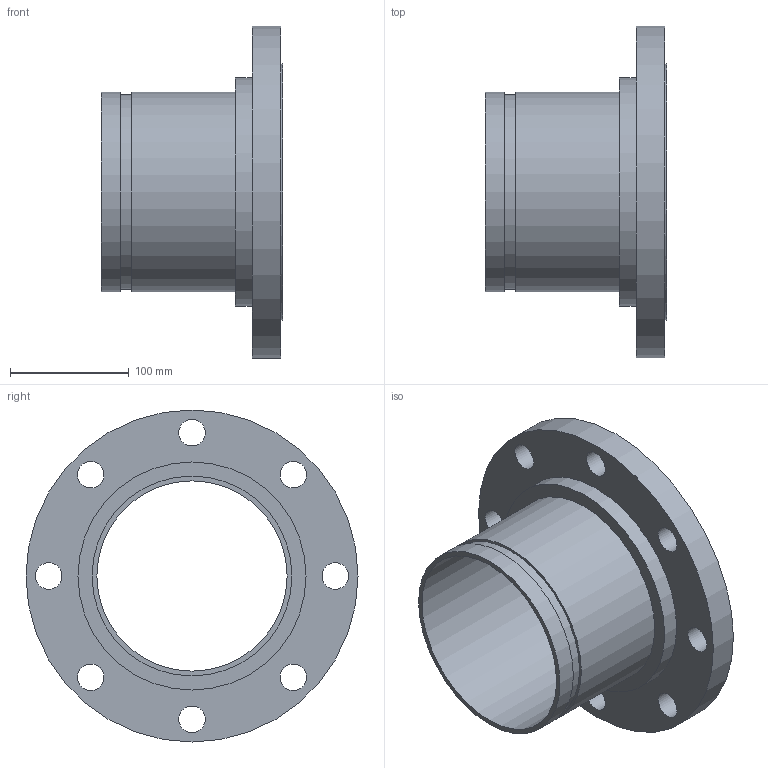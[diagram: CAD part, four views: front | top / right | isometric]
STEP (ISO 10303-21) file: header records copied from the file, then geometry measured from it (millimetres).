
FILE_DESCRIPTION(/* description */ ('VIC No 445R FLANGE ADAPTER NIPPE (ANSI)','CAx-IF Rec.Pracs.---Representation and Presentation of Product Manufacturing Information (PMI)---4.0---2014-10-13'),/* implementation_level */ '2;1');
FILE_NAME(/* name */ 'C:\Users\kkamble\AppData\Roaming\Autodesk\ApplicationPlugins\Back Up\Victaulic_SS-OGS_Flanged Adapter Nipple_CL 150 RF_Style 445R (OGSxFLG)\Victaulic_SS-OGS_Flanged Adapter Nipple_CL 150 RF_Style 445R (OGSxFLG)_6 (150).stp',/* time_stamp */ '2020-08-27T09:31:14+05:00',/* author */ ('jbrannon'),/* organization */ ('Victaulic'),/* preprocessor_version */ 'ST-DEVELOPER v17.2',/* originating_system */ 'Autodesk Inventor 2019',/* authorisation */ '');
FILE_SCHEMA (('AP242_MANAGED_MODEL_BASED_3D_ENGINEERING_MIM_LF { 1 0 10303 442 1 1 4 }'));
Length unit declared in the file: inch
Products named in the file (1): 445R-06.0
Bounding box: 152.4 x 279.4 x 279.4 mm (x, y, z)
Volume: 1285116.8 mm3; surface area: 258471.1 mm2
Topology: 1 solids, 1 shells, 22 faces, 59 edges, 44 vertices
Faces by surface type: cylinder 15, plane 7
Full cylindrical faces by diameter (mm): 22.352 x8, 160.147 x1, 163.957 x1, 168.275 x2, 192.024 x1, 215.9 x1, 279.4 x1
Entity records: 929 total; most frequent: DIRECTION 175, CARTESIAN_POINT 143, ORIENTED_EDGE 118, AXIS2_PLACEMENT_3D 80, EDGE_CURVE 59, EDGE_LOOP 45, CIRCLE 44, VERTEX_POINT 44
